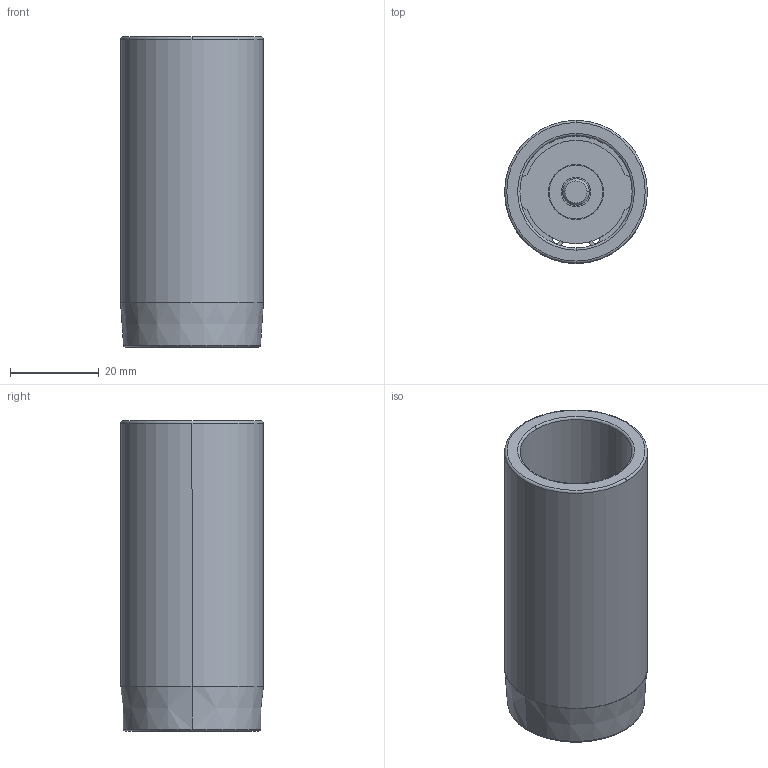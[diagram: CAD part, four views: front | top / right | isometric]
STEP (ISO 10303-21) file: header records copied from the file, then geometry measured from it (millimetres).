
FILE_DESCRIPTION((''),'2;1');
FILE_NAME('C12_025_070.stp','2009-01-28T08:31:52',(''),(''),'Mechanical Desktop 2009','Mechanical Desktop 2009',', , ');
FILE_SCHEMA(('CONFIG_CONTROL_DESIGN'));
Length unit declared in the file: millimetre
Products named in the file (2): Product; blmdl1
Assembly tree (1 placements, depth 2):
  Product
    blmdl1
Bounding box: 32.25 x 32.25 x 70 mm (x, y, z)
Volume: 23089.8 mm3; surface area: 16272.8 mm2
Topology: 5 solids, 5 shells, 79 faces, 200 edges, 134 vertices
Faces by surface type: cylinder 34, plane 29, torus 10, cone 6
Entity records: 2585 total; most frequent: DIRECTION 480, CARTESIAN_POINT 435, ORIENTED_EDGE 400, AXIS2_PLACEMENT_3D 203, EDGE_CURVE 200, VERTEX_POINT 134, CIRCLE 122, EDGE_LOOP 92
